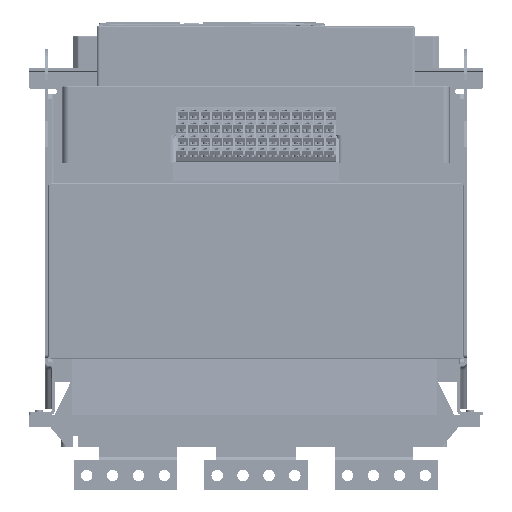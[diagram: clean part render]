
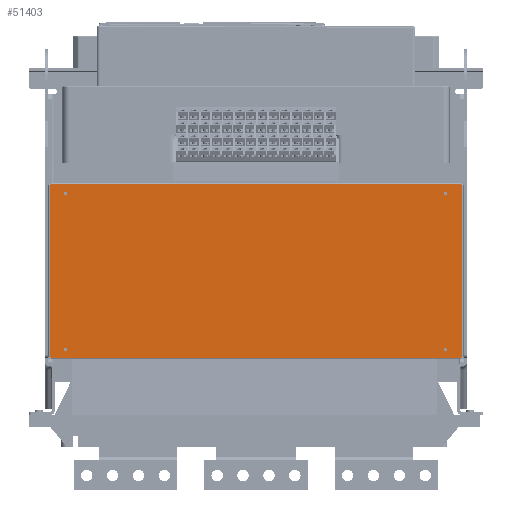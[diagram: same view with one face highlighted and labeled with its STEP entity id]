
A CAD part, front view. The second image highlights one B-rep face of the part: STEP entity #51403.
In plain terms, the highlighted planar face has unit normal (0, -1, 0) as drawn and (0, 0, -1) by its records, which use the part's own axes.
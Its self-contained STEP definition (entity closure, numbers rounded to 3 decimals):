
#48712=CARTESIAN_POINT('',(-184.,76.,0.));
#48713=DIRECTION('',(0.,0.,-1.));
#48714=DIRECTION('',(-1.,0.,0.));
#48715=AXIS2_PLACEMENT_3D('',#48712,#48713,#48714);
#48720=CARTESIAN_POINT('',(-184.,76.,0.));
#48721=DIRECTION('',(0.,0.,-1.));
#48722=DIRECTION('',(1.,0.,0.));
#48723=AXIS2_PLACEMENT_3D('',#48720,#48721,#48722);
#48728=CARTESIAN_POINT('',(183.,76.,0.));
#48729=DIRECTION('',(0.,0.,-1.));
#48730=DIRECTION('',(-1.,0.,0.));
#48731=AXIS2_PLACEMENT_3D('',#48728,#48729,#48730);
#48736=CARTESIAN_POINT('',(183.,76.,0.));
#48737=DIRECTION('',(0.,0.,-1.));
#48738=DIRECTION('',(1.,0.,0.));
#48739=AXIS2_PLACEMENT_3D('',#48736,#48737,#48738);
#48744=CARTESIAN_POINT('',(-184.,-75.,0.));
#48745=DIRECTION('',(0.,0.,-1.));
#48746=DIRECTION('',(-1.,0.,0.));
#48747=AXIS2_PLACEMENT_3D('',#48744,#48745,#48746);
#48752=CARTESIAN_POINT('',(-184.,-75.,0.));
#48753=DIRECTION('',(0.,0.,-1.));
#48754=DIRECTION('',(1.,0.,0.));
#48755=AXIS2_PLACEMENT_3D('',#48752,#48753,#48754);
#48760=CARTESIAN_POINT('',(183.,-75.,0.));
#48761=DIRECTION('',(0.,0.,-1.));
#48762=DIRECTION('',(-1.,0.,0.));
#48763=AXIS2_PLACEMENT_3D('',#48760,#48761,#48762);
#48768=CARTESIAN_POINT('',(183.,-75.,0.));
#48769=DIRECTION('',(0.,0.,-1.));
#48770=DIRECTION('',(1.,0.,0.));
#48771=AXIS2_PLACEMENT_3D('',#48768,#48769,#48770);
#48776=DIRECTION('',(0.,-1.,0.));
#48777=VECTOR('',#48776,166.);
#48778=CARTESIAN_POINT('',(199.5,83.,0.));
#48779=LINE('',#48778,#48777);
#48783=DIRECTION('',(-1.,0.,0.));
#48784=VECTOR('',#48783,1.);
#48785=CARTESIAN_POINT('',(199.5,83.,0.));
#48786=LINE('',#48785,#48784);
#48790=DIRECTION('',(0.,-1.,0.));
#48791=VECTOR('',#48790,1.);
#48792=CARTESIAN_POINT('',(198.5,84.,0.));
#48793=LINE('',#48792,#48791);
#48797=DIRECTION('',(1.,0.,0.));
#48798=VECTOR('',#48797,397.);
#48799=CARTESIAN_POINT('',(-198.5,84.,0.));
#48800=LINE('',#48799,#48798);
#48804=DIRECTION('',(0.,-1.,0.));
#48805=VECTOR('',#48804,1.);
#48806=CARTESIAN_POINT('',(-198.5,84.,0.));
#48807=LINE('',#48806,#48805);
#48811=DIRECTION('',(1.,0.,0.));
#48812=VECTOR('',#48811,1.);
#48813=CARTESIAN_POINT('',(-199.5,83.,0.));
#48814=LINE('',#48813,#48812);
#48818=DIRECTION('',(0.,1.,0.));
#48819=VECTOR('',#48818,166.);
#48820=CARTESIAN_POINT('',(-199.5,-83.,0.));
#48821=LINE('',#48820,#48819);
#48825=DIRECTION('',(1.,0.,0.));
#48826=VECTOR('',#48825,1.);
#48827=CARTESIAN_POINT('',(-199.5,-83.,0.));
#48828=LINE('',#48827,#48826);
#48832=DIRECTION('',(0.,1.,0.));
#48833=VECTOR('',#48832,1.);
#48834=CARTESIAN_POINT('',(-198.5,-84.,0.));
#48835=LINE('',#48834,#48833);
#48839=DIRECTION('',(-1.,0.,0.));
#48840=VECTOR('',#48839,397.);
#48841=CARTESIAN_POINT('',(198.5,-84.,0.));
#48842=LINE('',#48841,#48840);
#48846=DIRECTION('',(0.,1.,0.));
#48847=VECTOR('',#48846,1.);
#48848=CARTESIAN_POINT('',(198.5,-84.,0.));
#48849=LINE('',#48848,#48847);
#48853=DIRECTION('',(-1.,0.,0.));
#48854=VECTOR('',#48853,1.);
#48855=CARTESIAN_POINT('',(199.5,-83.,0.));
#48856=LINE('',#48855,#48854);
#50988=CARTESIAN_POINT('',(-185.6,76.,0.));
#50989=CARTESIAN_POINT('',(-182.4,76.,0.));
#50990=VERTEX_POINT('',#50988);
#50991=VERTEX_POINT('',#50989);
#50992=CARTESIAN_POINT('',(181.4,76.,0.));
#50993=CARTESIAN_POINT('',(184.6,76.,0.));
#50994=VERTEX_POINT('',#50992);
#50995=VERTEX_POINT('',#50993);
#50996=CARTESIAN_POINT('',(-185.6,-75.,0.));
#50997=CARTESIAN_POINT('',(-182.4,-75.,0.));
#50998=VERTEX_POINT('',#50996);
#50999=VERTEX_POINT('',#50997);
#51000=CARTESIAN_POINT('',(181.4,-75.,0.));
#51001=CARTESIAN_POINT('',(184.6,-75.,0.));
#51002=VERTEX_POINT('',#51000);
#51003=VERTEX_POINT('',#51001);
#51284=CARTESIAN_POINT('',(198.5,83.,0.));
#51285=VERTEX_POINT('',#51284);
#51286=CARTESIAN_POINT('',(-198.5,83.,0.));
#51287=VERTEX_POINT('',#51286);
#51288=CARTESIAN_POINT('',(-198.5,-83.,0.));
#51289=VERTEX_POINT('',#51288);
#51290=CARTESIAN_POINT('',(198.5,-83.,0.));
#51291=VERTEX_POINT('',#51290);
#51292=CARTESIAN_POINT('',(199.5,-83.,0.));
#51294=VERTEX_POINT('',#51292);
#51298=CARTESIAN_POINT('',(199.5,83.,0.));
#51299=VERTEX_POINT('',#51298);
#51300=CARTESIAN_POINT('',(-198.5,-84.,0.));
#51302=VERTEX_POINT('',#51300);
#51306=CARTESIAN_POINT('',(198.5,-84.,0.));
#51307=VERTEX_POINT('',#51306);
#51308=CARTESIAN_POINT('',(-199.5,83.,0.));
#51310=VERTEX_POINT('',#51308);
#51314=CARTESIAN_POINT('',(-199.5,-83.,0.));
#51315=VERTEX_POINT('',#51314);
#51316=CARTESIAN_POINT('',(198.5,84.,0.));
#51318=VERTEX_POINT('',#51316);
#51322=CARTESIAN_POINT('',(-198.5,84.,0.));
#51323=VERTEX_POINT('',#51322);
#51348=CARTESIAN_POINT('',(0.,0.,0.));
#51349=DIRECTION('',(0.,0.,1.));
#51350=DIRECTION('',(1.,0.,0.));
#51351=AXIS2_PLACEMENT_3D('',#51348,#51349,#51350);
#51352=PLANE('',#51351);
#51354=ORIENTED_EDGE('',*,*,#51353,.F.);
#51356=ORIENTED_EDGE('',*,*,#51355,.T.);
#51358=ORIENTED_EDGE('',*,*,#51357,.F.);
#51360=ORIENTED_EDGE('',*,*,#51359,.F.);
#51362=ORIENTED_EDGE('',*,*,#51361,.T.);
#51364=ORIENTED_EDGE('',*,*,#51363,.F.);
#51366=ORIENTED_EDGE('',*,*,#51365,.F.);
#51368=ORIENTED_EDGE('',*,*,#51367,.T.);
#51370=ORIENTED_EDGE('',*,*,#51369,.F.);
#51372=ORIENTED_EDGE('',*,*,#51371,.F.);
#51374=ORIENTED_EDGE('',*,*,#51373,.T.);
#51376=ORIENTED_EDGE('',*,*,#51375,.F.);
#51377=EDGE_LOOP('',(#51354,#51356,#51358,#51360,#51362,#51364,#51366,#51368,
#51370,#51372,#51374,#51376));
#51378=FACE_OUTER_BOUND('',#51377,.F.);
#51380=ORIENTED_EDGE('',*,*,#51379,.T.);
#51382=ORIENTED_EDGE('',*,*,#51381,.T.);
#51383=EDGE_LOOP('',(#51380,#51382));
#51384=FACE_BOUND('',#51383,.F.);
#51386=ORIENTED_EDGE('',*,*,#51385,.T.);
#51388=ORIENTED_EDGE('',*,*,#51387,.T.);
#51389=EDGE_LOOP('',(#51386,#51388));
#51390=FACE_BOUND('',#51389,.F.);
#51392=ORIENTED_EDGE('',*,*,#51391,.T.);
#51394=ORIENTED_EDGE('',*,*,#51393,.T.);
#51395=EDGE_LOOP('',(#51392,#51394));
#51396=FACE_BOUND('',#51395,.F.);
#51398=ORIENTED_EDGE('',*,*,#51397,.T.);
#51400=ORIENTED_EDGE('',*,*,#51399,.T.);
#51401=EDGE_LOOP('',(#51398,#51400));
#51402=FACE_BOUND('',#51401,.F.);
#51403=ADVANCED_FACE('',(#51378,#51384,#51390,#51396,#51402),#51352,.F.);
#48716=CIRCLE('',#48715,1.6);
#48724=CIRCLE('',#48723,1.6);
#48732=CIRCLE('',#48731,1.6);
#48740=CIRCLE('',#48739,1.6);
#48748=CIRCLE('',#48747,1.6);
#48756=CIRCLE('',#48755,1.6);
#48764=CIRCLE('',#48763,1.6);
#48772=CIRCLE('',#48771,1.6);
#51353=EDGE_CURVE('',#51299,#51294,#48779,.T.);
#51355=EDGE_CURVE('',#51299,#51285,#48786,.T.);
#51357=EDGE_CURVE('',#51318,#51285,#48793,.T.);
#51359=EDGE_CURVE('',#51323,#51318,#48800,.T.);
#51361=EDGE_CURVE('',#51323,#51287,#48807,.T.);
#51363=EDGE_CURVE('',#51310,#51287,#48814,.T.);
#51365=EDGE_CURVE('',#51315,#51310,#48821,.T.);
#51367=EDGE_CURVE('',#51315,#51289,#48828,.T.);
#51369=EDGE_CURVE('',#51302,#51289,#48835,.T.);
#51371=EDGE_CURVE('',#51307,#51302,#48842,.T.);
#51373=EDGE_CURVE('',#51307,#51291,#48849,.T.);
#51375=EDGE_CURVE('',#51294,#51291,#48856,.T.);
#51379=EDGE_CURVE('',#50994,#50995,#48732,.T.);
#51381=EDGE_CURVE('',#50995,#50994,#48740,.T.);
#51385=EDGE_CURVE('',#50998,#50999,#48748,.T.);
#51387=EDGE_CURVE('',#50999,#50998,#48756,.T.);
#51391=EDGE_CURVE('',#51002,#51003,#48764,.T.);
#51393=EDGE_CURVE('',#51003,#51002,#48772,.T.);
#51397=EDGE_CURVE('',#50990,#50991,#48716,.T.);
#51399=EDGE_CURVE('',#50991,#50990,#48724,.T.);
